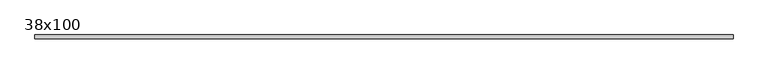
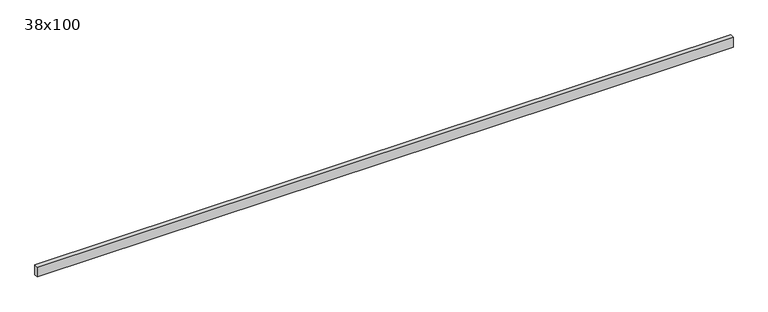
"""IFC4 building model written with IfcOpenShell, lengths in millimetres: beam geometry, Poutre - Bois de construction de dimensions courantes : 38x100."""

from ifc_helpers import new_model, si_unit, frame, origin, place, context, project, spatial, polyline, outline, extrude, source, transform, mapped, element, save


def beam_38x100_6258e3b3(model_context):
    return source(origin(), model_context, "Body", "SweptSolid", [
        extrude(outline(polyline([(3346.0, 19.05), (3346.0, -19.05), (-3346.0, -19.05), (-3346.0, 19.05), (3346.0, 19.05)])), frame((0.0, 0.0, -50.0), z_axis=(0.0, 0.0, 1.0), x_axis=(1.0, 0.0, 0.0)), (0.0, 0.0, 1.0), 100.0),
    ])


if __name__ == "__main__":
    model = new_model("IFC4")
    model_context = context("Model", 3, world=origin())
    ifc_project = project(units=[si_unit("LENGTHUNIT", "METRE", prefix="MILLI")], contexts=[model_context])
    site = spatial("IfcSite", under=ifc_project)
    building = spatial("IfcBuilding", under=site)
    placement = place(None, origin())
    beam_38x100_shape = beam_38x100_6258e3b3(model_context)
    element("IfcBeam", 1, ObjectType="Poutre - Bois de construction de dimensions courantes : 38x100", at=placement, inside=building, context=model_context, shape_type="MappedRepresentation", body=[
        mapped(beam_38x100_shape, transform((0.0, 0.0, 0.0), x_axis=(1.0, 0.0, 0.0), y_axis=(0.0, 1.0, 0.0), z_axis=(0.0, 0.0, 1.0))),
    ])
    save(model, "model.ifc")
